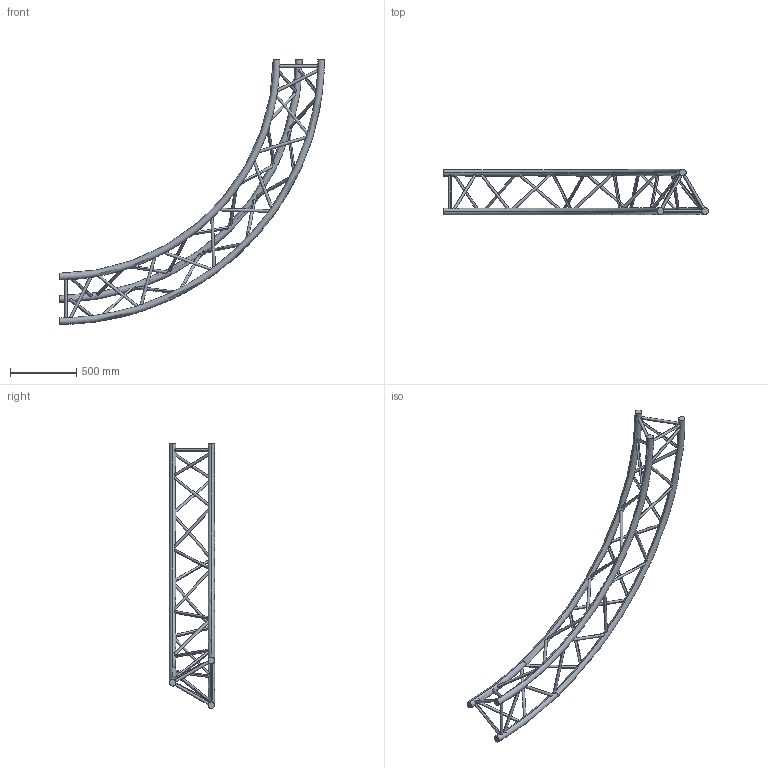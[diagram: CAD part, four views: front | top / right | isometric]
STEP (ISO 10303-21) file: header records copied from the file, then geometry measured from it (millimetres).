
FILE_DESCRIPTION (( 'STEP AP203' ), '1' );
FILE_NAME ('SXC39400PH.STEP', '2009-10-21T11:25:53', ( 'CEDIA' ), ( 'CEDIA INDUSTRIE' ), 'SwSTEP 2.0', 'SolidWorks 2009', '' );
FILE_SCHEMA (( 'CONFIG_CONTROL_DESIGN' ));
Length unit declared in the file: millimetre
Products named in the file (1): SXC39400PH
Bounding box: 2000 x 341.85 x 2000 mm (x, y, z)
Volume: 20693758.1 mm3; surface area: 2119428 mm2
Topology: 1 solids, 1 shells, 84 faces, 258 edges, 156 vertices
Faces by surface type: cylinder 72, torus 6, plane 6
Entity records: 9796 total; most frequent: CARTESIAN_POINT 7570, ORIENTED_EDGE 516, DIRECTION 326, EDGE_CURVE 258, VERTEX_POINT 156, B_SPLINE_CURVE_WITH_KNOTS 144, EDGE_LOOP 132, AXIS2_PLACEMENT_3D 127
